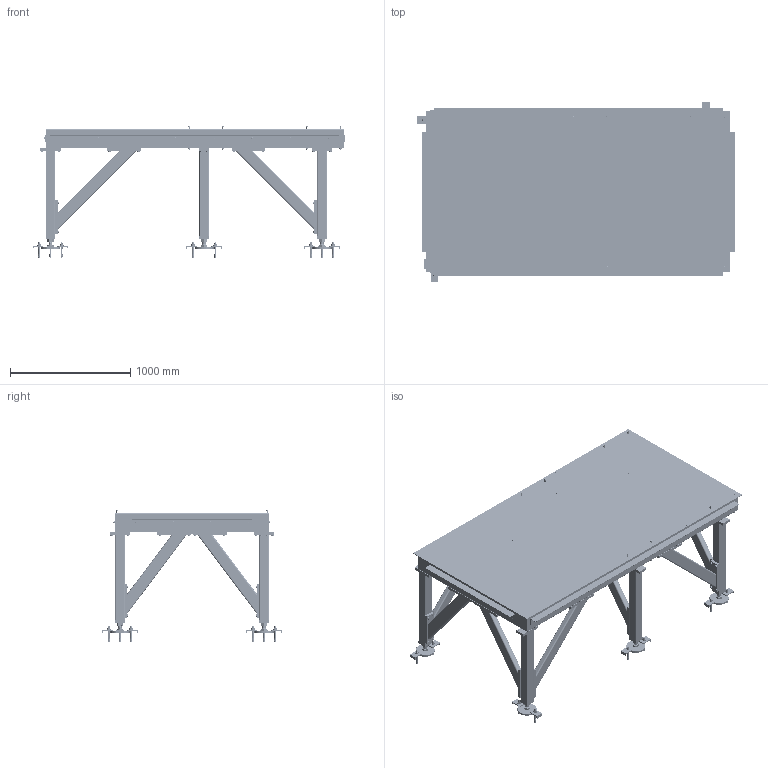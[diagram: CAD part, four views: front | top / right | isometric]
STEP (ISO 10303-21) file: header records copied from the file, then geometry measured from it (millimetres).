
FILE_DESCRIPTION (( 'STEP AP214' ), '1' );
FILE_NAME ('grd2-fau-01.STEP', '2025-06-13T06:50:49', ( '' ), ( '' ), 'SwSTEP 2.0', 'SolidWorks 2017', '' );
FILE_SCHEMA (( 'AUTOMOTIVE_DESIGN' ));
Length unit declared in the file: millimetre
Products named in the file (31): grd2-fau-07; z_NUT_H_NUT  H M 8; z2-grd2-fau-04_GRAND; z_vis H_8-100; z-M8 ASSY_corniere; grd2-fau-06_3-3; z2-grd2-fau-04_PETIT; z1-grd2-fau-05; z_Washer_WASHER Z 10; grd2-fau-04_CV1; z_Screw_H_SCREW H M10x25-25; Z-ECROU HM30_‚crou h M30; grd2-fau-02_D‚faut<Brut d''usinage>; z1-grd2-fau-06_3<Brut d''usinage>; z-Hilti_Cheville segments HSA M16x137; grd2-fau-01; z1-grd2-fau-06_3-3<Brut d''usinage>; z_vis H_TF M8X200; z-screw_din_933-m30x120; grd2-fau-06_2; grd2-fau-08_D‚faut<Brut d''usinage>; grd2-fau-08_1000<Brut d''usinage>; grd2-fau-03-ACIER; grd2-fau-04_2; z_Washer_WASHER M 8; z-M8 ASSY_vis; z1-grd2-fau-04_default-lisse; z_vis H_vis H M8x25; grd2-fau-03-INOX; z-M8 ASSY_175.5; z1-grd2-fau-04_petit-lisse
Assembly tree (242 placements, depth 3):
  grd2-fau-01
    grd2-fau-02_D‚faut<Brut d''usinage>
    grd2-fau-04_CV1  x4
      z1-grd2-fau-04_default-lisse
      z2-grd2-fau-04_GRAND
      z1-grd2-fau-04_petit-lisse
    grd2-fau-06_2  x2
      z1-grd2-fau-06_3<Brut d''usinage>
      z1-grd2-fau-05
      Z-ECROU HM30_‚crou h M30
      z-screw_din_933-m30x120
      z_Washer_WASHER Z 10
      z_Screw_H_SCREW H M10x25-25
      z-Hilti_Cheville segments HSA M16x137
      grd2-fau-07
    grd2-fau-06_3-3  x4
      z1-grd2-fau-06_3-3<Brut d''usinage>
      z1-grd2-fau-05
      Z-ECROU HM30_‚crou h M30
      z-screw_din_933-m30x120
      z_Washer_WASHER Z 10
      z_Screw_H_SCREW H M10x25-25
      z-Hilti_Cheville segments HSA M16x137
      grd2-fau-07
    grd2-fau-04_2  x6
      z1-grd2-fau-04_default-lisse
      z2-grd2-fau-04_PETIT
      z1-grd2-fau-04_petit-lisse
    z_Washer_WASHER Z 10  x64
    z_Screw_H_SCREW H M10x25-25  x64
    grd2-fau-03-ACIER
    grd2-fau-03-INOX
    grd2-fau-08_D‚faut<Brut d''usinage>  x2
    grd2-fau-08_1000<Brut d''usinage>  x2
    z-M8 ASSY_corniere  x20
      z_Washer_WASHER M 8
      z_NUT_H_NUT  H M 8
      z_vis H_8-100
    z-M8 ASSY_vis  x4
      z_Washer_WASHER M 8
      z_NUT_H_NUT  H M 8
      z_vis H_vis H M8x25
    z-M8 ASSY_175.5  x8
      z_Washer_WASHER M 8
      z_NUT_H_NUT  H M 8
      z_vis H_TF M8X200
Bounding box: 2653 x 1496 x 1105.84 mm (x, y, z)
Volume: 64693170.4 mm3; surface area: 36444736.2 mm2
Topology: 503 solids, 515 shells, 7656 faces, 17908 edges, 11482 vertices
Faces by surface type: plane 3154, cylinder 2790, cone 1616, bspline 96
Entity records: 54077 total; most frequent: CARTESIAN_POINT 9548, DIRECTION 8833, ORIENTED_EDGE 7732, EDGE_CURVE 3866, AXIS2_PLACEMENT_3D 3459, VERTEX_POINT 2528, EDGE_LOOP 2120, VECTOR 1915
